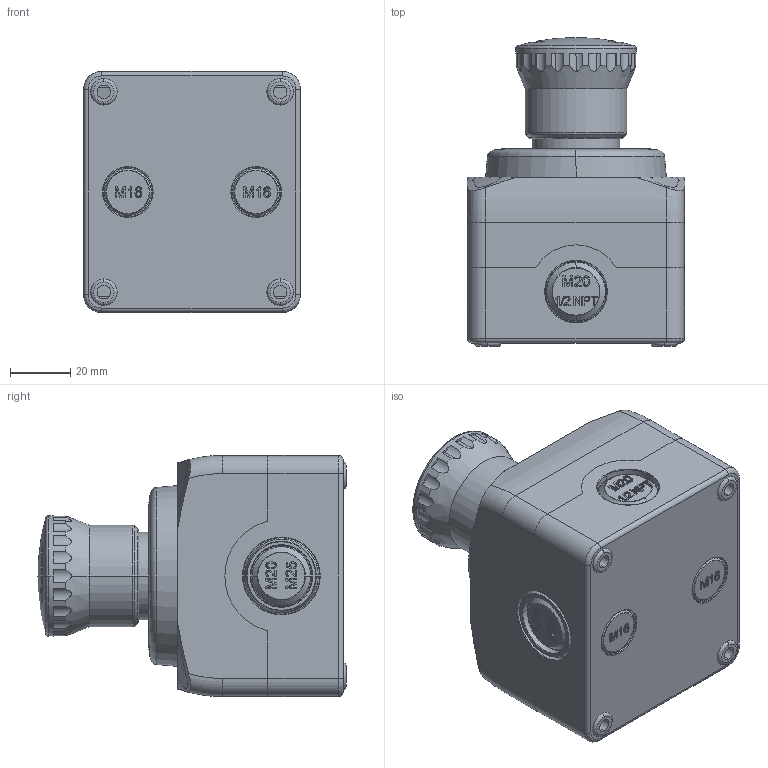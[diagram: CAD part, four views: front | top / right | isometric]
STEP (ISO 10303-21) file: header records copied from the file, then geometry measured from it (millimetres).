
FILE_DESCRIPTION (( 'STEP AP214' ), '1' );
FILE_NAME ('ZF_STEP_ES_AC31433.step', '2016-09-07T12:48:06', ( 'Pizzato Elettrica' ), ( '' ), 'SwSTEP 2.0', 'SolidWorks 2014', '' );
FILE_SCHEMA (( 'AUTOMOTIVE_DESIGN' ));
Length unit declared in the file: millimetre
Products named in the file (7): ZF_STEP_VE_DLxAxxxx_A14; Tappo D_24176; Tappo C_24175; ZF_STEP_E2_xPERZ4xxx_A10; 24171_3DWeb_24151; 24170_3DWeb_24150; ZF_STEP_ES_AC31433
Assembly tree (8 placements, depth 2):
  ZF_STEP_ES_AC31433
    24170_3DWeb_24150
    24171_3DWeb_24151
    ZF_STEP_E2_xPERZ4xxx_A10
    Tappo C_24175  x2
    Tappo D_24176  x2
    ZF_STEP_VE_DLxAxxxx_A14
Bounding box: 72 x 102.3 x 80 mm (x, y, z)
Volume: 354202.4 mm3; surface area: 69673.1 mm2
Topology: 8 solids, 8 shells, 1124 faces, 2911 edges, 1897 vertices
Faces by surface type: plane 542, cylinder 210, bspline 204, torus 96, cone 64, sphere 8
Entity records: 42743 total; most frequent: CARTESIAN_POINT 18420, ORIENTED_EDGE 5290, DIRECTION 4466, EDGE_CURVE 2645, VERTEX_POINT 1725, AXIS2_PLACEMENT_3D 1513, LINE 1440, VECTOR 1440
